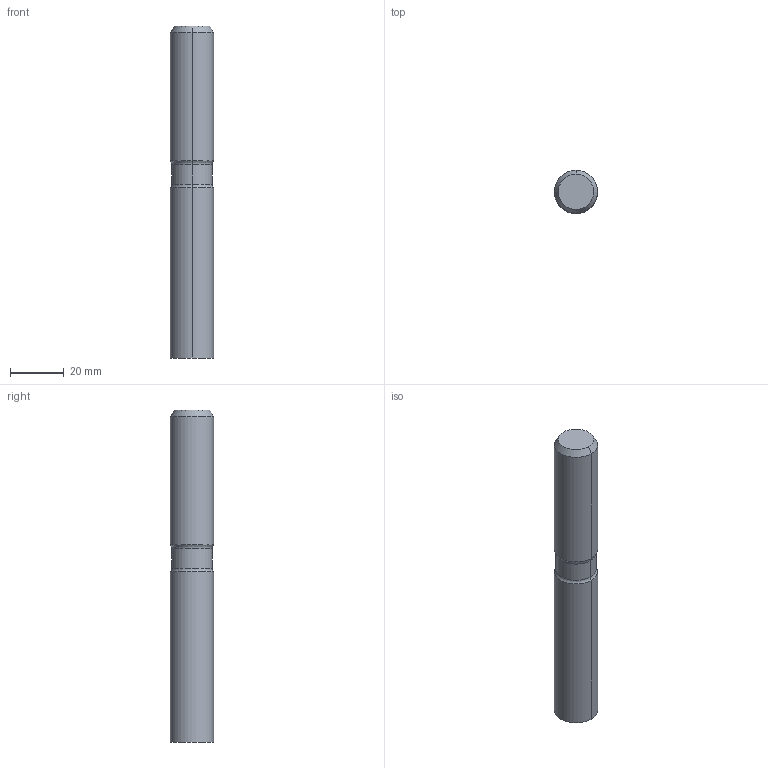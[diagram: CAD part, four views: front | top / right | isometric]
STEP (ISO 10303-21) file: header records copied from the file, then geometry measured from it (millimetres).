
FILE_DESCRIPTION((''),'2;1');
FILE_NAME('DIN4003_82_HEURO','2016-04-19T',('automc'),(''),'PRO/ENGINEER BY PARAMETRIC TECHNOLOGY CORPORATION, 2015280','PRO/ENGINEER BY PARAMETRIC TECHNOLOGY CORPORATION, 2015280','');
FILE_SCHEMA(('AUTOMOTIVE_DESIGN { 1 0 10303 214 1 1 1 1 }'));
Length unit declared in the file: millimetre
Products named in the file (1): DIN4003_82_HEURO
Bounding box: 16 x 16 x 123 mm (x, y, z)
Volume: 24422 mm3; surface area: 6508.4 mm2
Topology: 1 solids, 1 shells, 14 faces, 28 edges, 17 vertices
Faces by surface type: bspline 14
Entity records: 1489 total; most frequent: CARTESIAN_POINT 959, DIRECTION 76, ORIENTED_EDGE 52, AXIS2_PLACEMENT_3D 30, EDGE_CURVE 26, PRESENTATION_STYLE_ASSIGNMENT 25, STYLED_ITEM 25, CIRCLE 18
